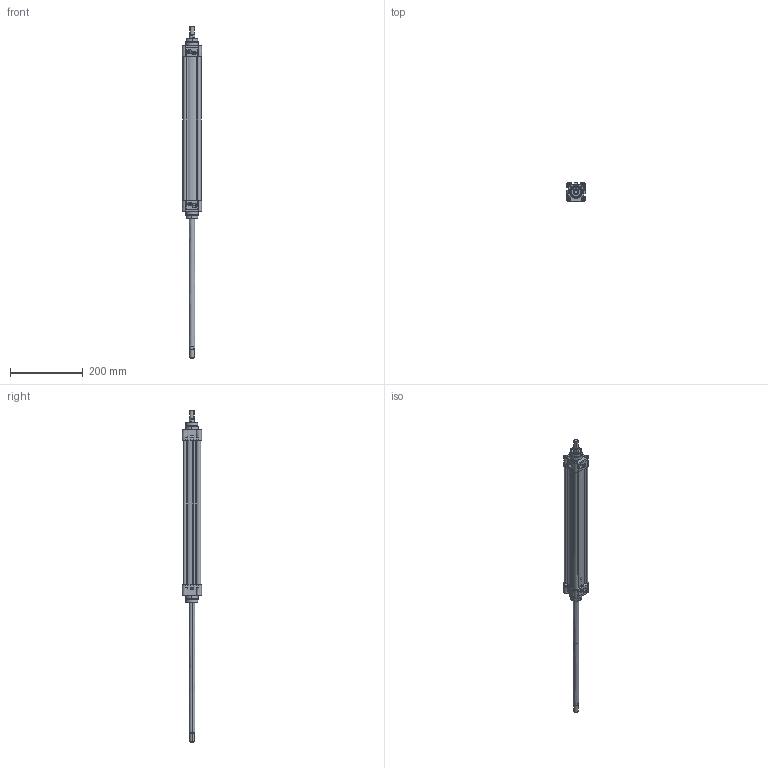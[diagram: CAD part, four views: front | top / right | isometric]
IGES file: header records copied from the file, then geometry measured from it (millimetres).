
Start section: SolidWorks IGES file using analytic representation for surfaces
Global section: file name: D:\ARICA 3D 禽Z軲LER\3D IGES\KDNT 禽FT M軱L輁KDNT40\KDNT40X350CIFTMILLI-CYLINDER.IGS; native system: SolidWorks 2013; preprocessor: SolidWorks 2013; author: user; date: 160324.095510; units: millimetre
Bounding box: 53 x 53.3 x 913.1 mm (x, y, z)
Surface area: 279690.1 mm2 (no closed solid volume)
Topology: 0 solids, 0 shells, 718 faces, 11564 edges, 11548 vertices
Faces by surface type: revolution 438, bspline 280
